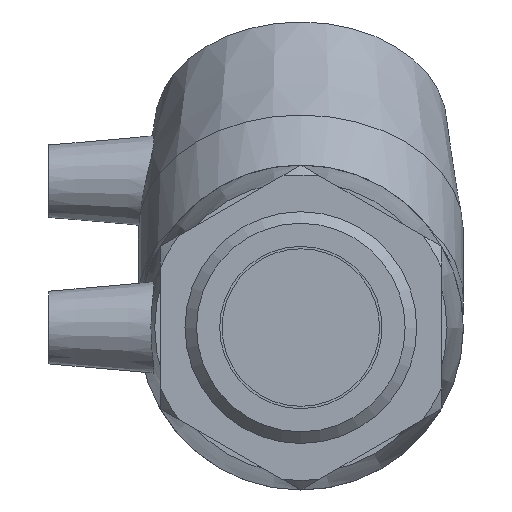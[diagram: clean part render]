
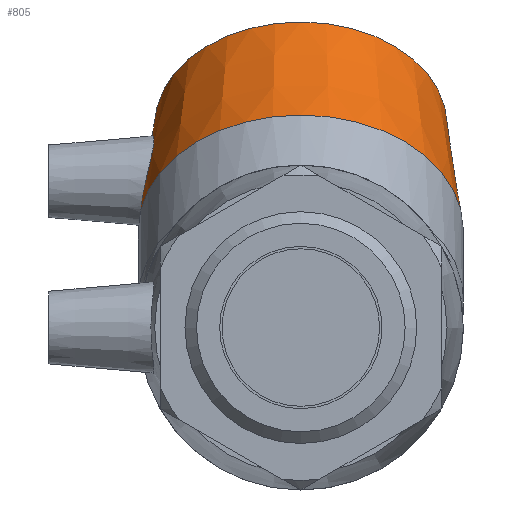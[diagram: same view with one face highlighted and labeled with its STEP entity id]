
A CAD part, left-side view. The second image highlights one B-rep face of the part: STEP entity #805.
In plain terms, the highlighted conical face has half-angle 6.268 degrees and reference radius 31.825 mm.
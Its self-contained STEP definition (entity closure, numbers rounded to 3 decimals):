
#15=B_SPLINE_CURVE_WITH_KNOTS('',3,(#1435,#1436,#1437,#1438,#1439,#1440,
#1441,#1442,#1443,#1444,#1445,#1446,#1447,#1448,#1449,#1450,#1451,#1452,
#1453,#1454,#1455,#1456,#1457,#1458,#1459,#1460,#1461,#1462,#1463,#1464,
#1465,#1466,#1467,#1468),.UNSPECIFIED.,.T.,.F.,(4,2,2,2,2,2,2,2,2,2,2,2,
2,2,2,2,4),(0.,0.343,0.686,1.032,1.377,
1.723,2.069,2.412,2.755,3.123,
3.492,3.852,4.212,4.572,4.932,
5.301,5.669),.UNSPECIFIED.);
#146=FACE_BOUND('',#294,.T.);
#147=FACE_BOUND('',#295,.T.);
#209=FACE_OUTER_BOUND('',#293,.T.);
#293=EDGE_LOOP('',(#709));
#294=EDGE_LOOP('',(#710));
#295=EDGE_LOOP('',(#711));
#357=CIRCLE('',#900,33.5);
#361=CIRCLE('',#911,30.15);
#431=VERTEX_POINT('',#1430);
#432=VERTEX_POINT('',#1434);
#436=VERTEX_POINT('',#1480);
#527=EDGE_CURVE('',#431,#431,#357,.T.);
#529=EDGE_CURVE('',#432,#432,#15,.T.);
#533=EDGE_CURVE('',#436,#436,#361,.T.);
#709=ORIENTED_EDGE('',*,*,#527,.F.);
#710=ORIENTED_EDGE('',*,*,#529,.T.);
#711=ORIENTED_EDGE('',*,*,#533,.T.);
#753=CONICAL_SURFACE('',#912,31.825,6.268);
#805=ADVANCED_FACE('',(#209,#146,#147),#753,.T.);
#900=AXIS2_PLACEMENT_3D('',#1431,#1111,#1112);
#911=AXIS2_PLACEMENT_3D('',#1481,#1133,#1134);
#912=AXIS2_PLACEMENT_3D('',#1482,#1135,#1136);
#1111=DIRECTION('center_axis',(-0.707,0.,
-0.707));
#1112=DIRECTION('ref_axis',(-0.707,0.,0.707));
#1133=DIRECTION('center_axis',(-0.707,0.,
-0.707));
#1134=DIRECTION('ref_axis',(-0.707,0.,0.707));
#1135=DIRECTION('center_axis',(-0.707,0.,
-0.707));
#1136=DIRECTION('ref_axis',(0.,1.,0.));
#1430=CARTESIAN_POINT('',(20.137,33.5,20.137));
#1431=CARTESIAN_POINT('Origin',(20.137,0.,
20.137));
#1434=CARTESIAN_POINT('',(37.097,30.486,23.84));
#1435=CARTESIAN_POINT('Ctrl Pts',(37.097,30.486,23.84));
#1436=CARTESIAN_POINT('Ctrl Pts',(37.875,30.367,24.67));
#1437=CARTESIAN_POINT('Ctrl Pts',(38.542,30.313,25.712));
#1438=CARTESIAN_POINT('Ctrl Pts',(39.404,30.341,27.98));
#1439=CARTESIAN_POINT('Ctrl Pts',(39.599,30.42,29.204));
#1440=CARTESIAN_POINT('Ctrl Pts',(39.546,30.596,31.492));
#1441=CARTESIAN_POINT('Ctrl Pts',(39.294,30.706,32.713));
#1442=CARTESIAN_POINT('Ctrl Pts',(38.329,30.865,34.96));
#1443=CARTESIAN_POINT('Ctrl Pts',(37.616,30.911,35.987));
#1444=CARTESIAN_POINT('Ctrl Pts',(35.987,30.911,37.616));
#1445=CARTESIAN_POINT('Ctrl Pts',(34.96,30.865,38.329));
#1446=CARTESIAN_POINT('Ctrl Pts',(32.713,30.706,39.294));
#1447=CARTESIAN_POINT('Ctrl Pts',(31.492,30.596,39.546));
#1448=CARTESIAN_POINT('Ctrl Pts',(29.204,30.42,39.599));
#1449=CARTESIAN_POINT('Ctrl Pts',(27.98,30.341,39.404));
#1450=CARTESIAN_POINT('Ctrl Pts',(25.712,30.313,38.542));
#1451=CARTESIAN_POINT('Ctrl Pts',(24.67,30.367,37.875));
#1452=CARTESIAN_POINT('Ctrl Pts',(22.949,30.615,36.262));
#1453=CARTESIAN_POINT('Ctrl Pts',(22.19,30.833,35.195));
#1454=CARTESIAN_POINT('Ctrl Pts',(21.187,31.368,32.856));
#1455=CARTESIAN_POINT('Ctrl Pts',(20.942,31.679,31.583));
#1456=CARTESIAN_POINT('Ctrl Pts',(20.94,32.217,29.214));
#1457=CARTESIAN_POINT('Ctrl Pts',(21.173,32.481,27.958));
#1458=CARTESIAN_POINT('Ctrl Pts',(22.133,32.846,25.631));
#1459=CARTESIAN_POINT('Ctrl Pts',(22.862,32.945,24.56));
#1460=CARTESIAN_POINT('Ctrl Pts',(24.56,32.945,22.862));
#1461=CARTESIAN_POINT('Ctrl Pts',(25.631,32.846,22.133));
#1462=CARTESIAN_POINT('Ctrl Pts',(27.958,32.481,21.173));
#1463=CARTESIAN_POINT('Ctrl Pts',(29.214,32.217,20.94));
#1464=CARTESIAN_POINT('Ctrl Pts',(31.583,31.679,20.942));
#1465=CARTESIAN_POINT('Ctrl Pts',(32.856,31.368,21.187));
#1466=CARTESIAN_POINT('Ctrl Pts',(35.195,30.833,22.19));
#1467=CARTESIAN_POINT('Ctrl Pts',(36.262,30.615,22.949));
#1468=CARTESIAN_POINT('Ctrl Pts',(37.097,30.486,23.84));
#1480=CARTESIAN_POINT('',(41.703,30.15,41.703));
#1481=CARTESIAN_POINT('Origin',(41.703,0.,41.703));
#1482=CARTESIAN_POINT('Origin',(30.92,0.,
30.92));
